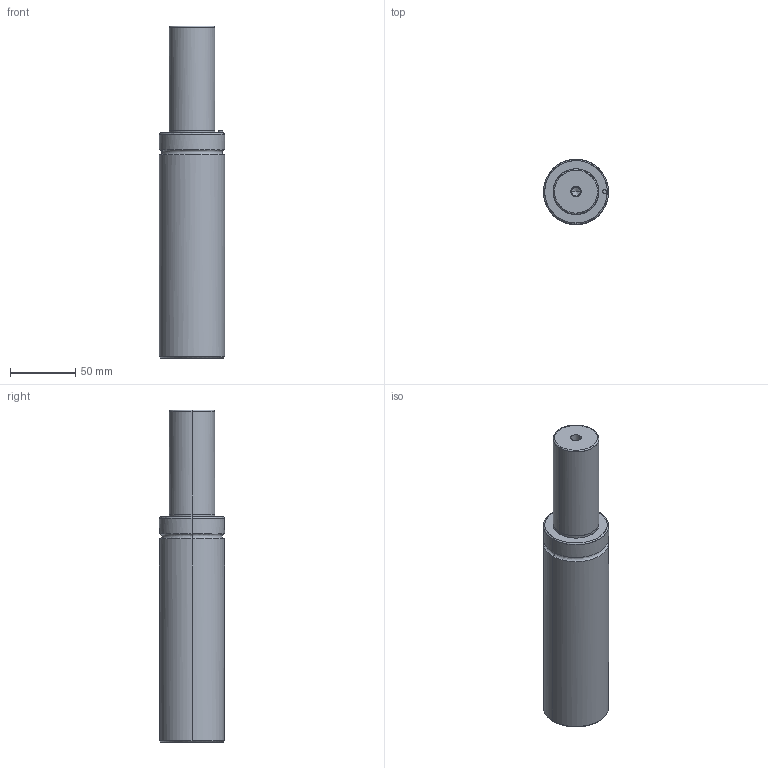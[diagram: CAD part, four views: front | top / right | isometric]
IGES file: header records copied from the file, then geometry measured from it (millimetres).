
Global section: file name: E:\UnigraphicsGraphicData\MISUMI_PRESS-PARTS\IGES\3d_gsm50-80_03903_r00.igs; native system: NX V5.0; preprocessor: UGS NX IGES V5.0; author: MISUMI; date: 20110105.160817; units: millimetre
Bounding box: 50 x 49.94 x 255 mm (x, y, z)
Surface area: 41680.5 mm2 (no closed solid volume)
Topology: 0 solids, 0 shells, 50 faces, 344 edges, 336 vertices
Faces by surface type: bspline 50
